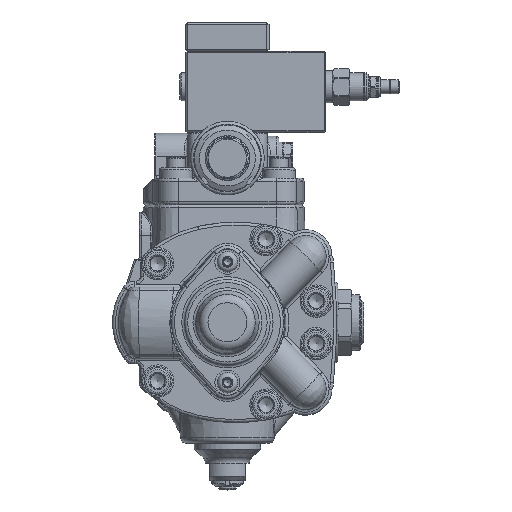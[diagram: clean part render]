
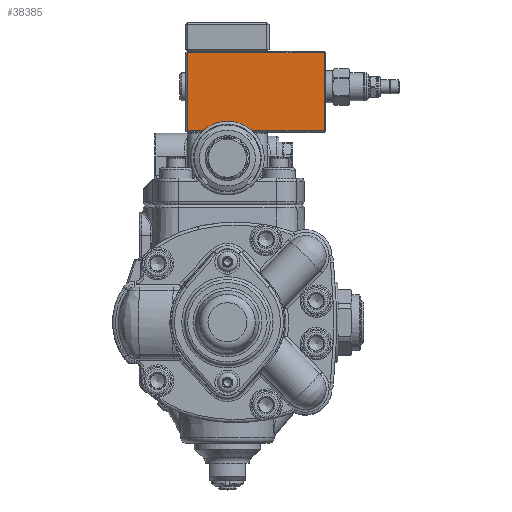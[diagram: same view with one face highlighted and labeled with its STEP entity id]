
A CAD part, top view. The second image highlights one B-rep face of the part: STEP entity #38385.
In plain terms, the highlighted planar face has unit normal (0, 0, 1).
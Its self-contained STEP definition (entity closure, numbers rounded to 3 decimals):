
#1310=PLANE('',#40912);
#2526=FACE_OUTER_BOUND('',#4803,.T.);
#4803=EDGE_LOOP('',(#25170,#25171,#25172,#25173));
#10280=LINE('',#56476,#12533);
#10282=LINE('',#56480,#12535);
#10285=LINE('',#56484,#12538);
#10291=LINE('',#56495,#12544);
#12533=VECTOR('',#45713,10.);
#12535=VECTOR('',#45719,10.);
#12538=VECTOR('',#45724,10.);
#12544=VECTOR('',#45740,10.);
#14942=VERTEX_POINT('',#56448);
#14943=VERTEX_POINT('',#56452);
#14948=VERTEX_POINT('',#56466);
#14950=VERTEX_POINT('',#56471);
#18777=EDGE_CURVE('',#14950,#14948,#10280,.T.);
#18779=EDGE_CURVE('',#14943,#14950,#10282,.T.);
#18782=EDGE_CURVE('',#14948,#14942,#10285,.T.);
#18788=EDGE_CURVE('',#14942,#14943,#10291,.T.);
#25170=ORIENTED_EDGE('',*,*,#18777,.F.);
#25171=ORIENTED_EDGE('',*,*,#18779,.F.);
#25172=ORIENTED_EDGE('',*,*,#18788,.F.);
#25173=ORIENTED_EDGE('',*,*,#18782,.F.);
#38385=ADVANCED_FACE('',(#2526),#1310,.T.);
#40912=AXIS2_PLACEMENT_3D('',#56509,#45757,#45758);
#45713=DIRECTION('',(1.,0.,0.));
#45719=DIRECTION('',(0.,1.,0.));
#45724=DIRECTION('',(0.,-1.,0.));
#45740=DIRECTION('',(-1.,0.,0.));
#45757=DIRECTION('center_axis',(0.,0.,
1.));
#45758=DIRECTION('ref_axis',(0.,1.,0.));
#56448=CARTESIAN_POINT('',(194.297,120.193,74.283));
#56452=CARTESIAN_POINT('',(101.297,120.193,74.283));
#56466=CARTESIAN_POINT('',(194.297,173.193,74.283));
#56471=CARTESIAN_POINT('',(101.297,173.193,74.283));
#56476=CARTESIAN_POINT('',(124.047,173.193,74.283));
#56480=CARTESIAN_POINT('',(101.297,174.193,74.283));
#56484=CARTESIAN_POINT('',(194.297,174.193,74.283));
#56495=CARTESIAN_POINT('',(124.047,120.193,74.283));
#56509=CARTESIAN_POINT('Origin',(100.297,174.193,74.283));
